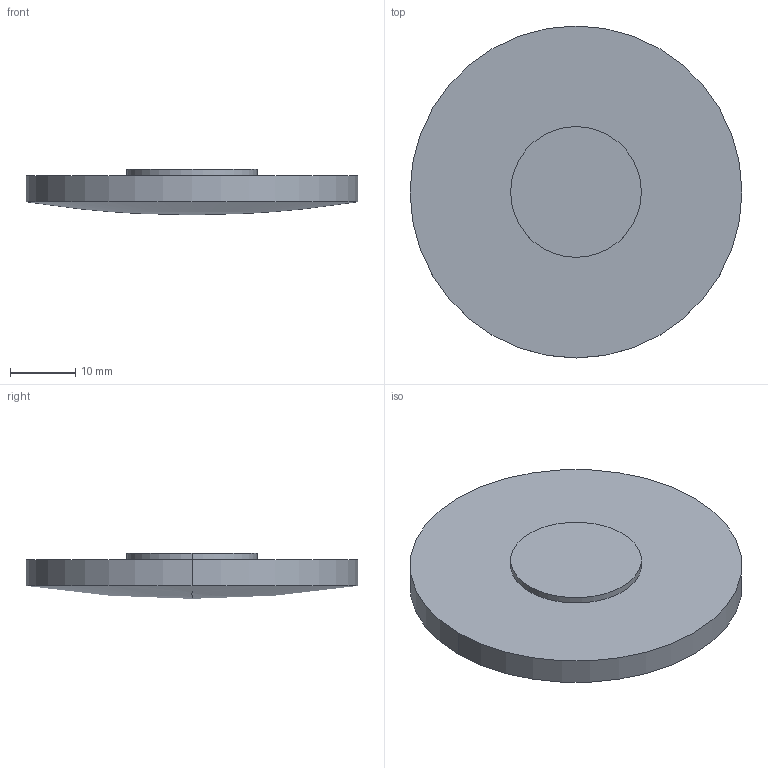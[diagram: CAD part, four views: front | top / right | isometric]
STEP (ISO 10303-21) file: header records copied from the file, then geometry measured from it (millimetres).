
FILE_DESCRIPTION(('STEP AP214'),'1');
FILE_NAME('LL-51-240.STEP','2020-03-09T17:41:15',(' '),(' '),'Spatial InterOp 3D',' ',' ');
FILE_SCHEMA(('AUTOMOTIVE_DESIGN { 1 0 10303 214 1 1 1 1 }'));
Length unit declared in the file: millimetre
Products named in the file (1): 1
Bounding box: 50.8 x 50.8 x 7 mm (x, y, z)
Volume: 10462.4 mm3; surface area: 5397.2 mm2
Topology: 2 solids, 2 shells, 9 faces, 16 edges, 9 vertices
Faces by surface type: cylinder 4, plane 3, sphere 2
Entity records: 229 total; most frequent: DIRECTION 46, CARTESIAN_POINT 34, ORIENTED_EDGE 28, AXIS2_PLACEMENT_3D 21, EDGE_CURVE 14, CIRCLE 10, ADVANCED_FACE 9, FACE_OUTER_BOUND 9
